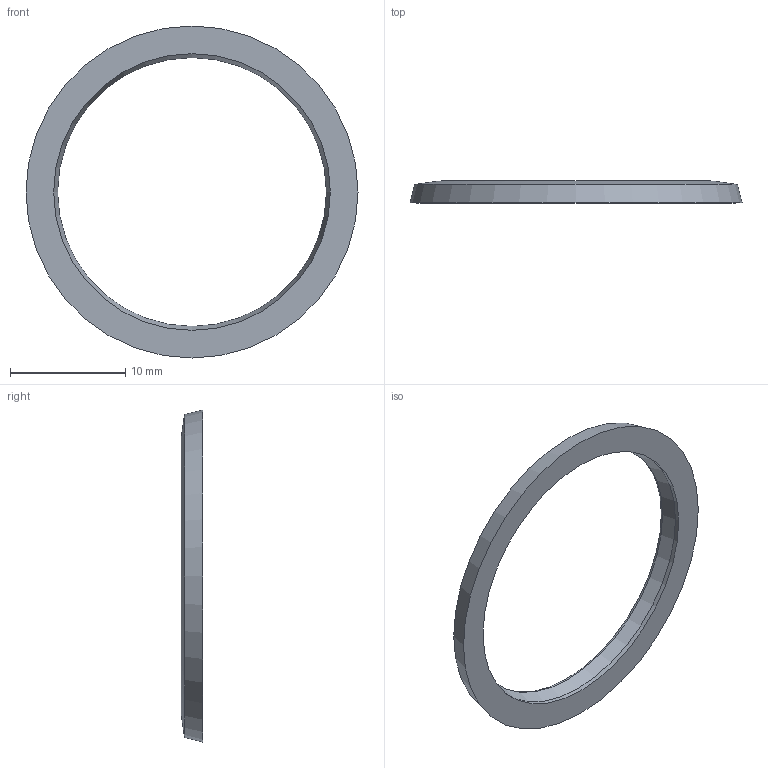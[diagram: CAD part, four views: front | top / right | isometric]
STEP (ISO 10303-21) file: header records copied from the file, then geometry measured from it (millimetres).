
FILE_DESCRIPTION( ( 'STEP AP203' ), '1' );
FILE_NAME( 'C:/Temp/Ganter_Step_05_03_2020/data/3_5/gn7600/Sealing ring GN 7600-28-24-2-HNBR-85.stp', '2020-03-12T13:43:52', ( 'License CC BY-ND 4.0' ), ( 'CADENAS' ), ' ', 'PARTsolutions', ' ' );
FILE_SCHEMA( ( 'CONFIG_CONTROL_DESIGN' ) );
Length unit declared in the file: millimetre
Products named in the file (1): _Sealing ring GN 7600-28-24-2-HNBR-85
Bounding box: 28.8 x 1.9 x 28.8 mm (x, y, z)
Volume: 333.5 mm3; surface area: 675.1 mm2
Topology: 1 solids, 1 shells, 6 faces, 11 edges, 6 vertices
Faces by surface type: cone 3, torus 1, cylinder 1, plane 1
Full cylindrical faces by diameter (mm): 24 x1
Entity records: 172 total; most frequent: DIRECTION 26, CARTESIAN_POINT 19, AXIS2_PLACEMENT_3D 13, EDGE_LOOP 12, ORIENTED_EDGE 12, FACE_OUTER_BOUND 8, ADVANCED_FACE 6, EDGE_CURVE 6
